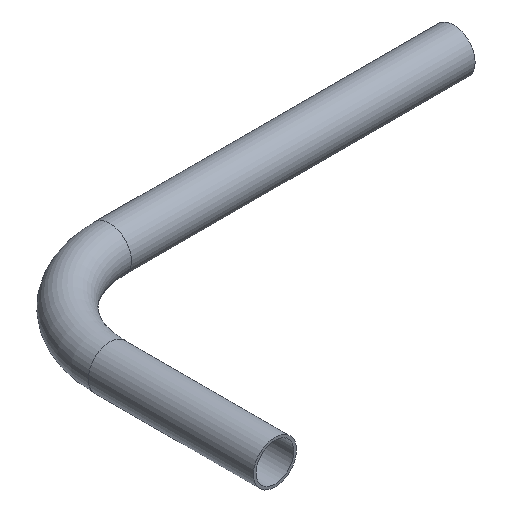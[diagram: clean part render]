
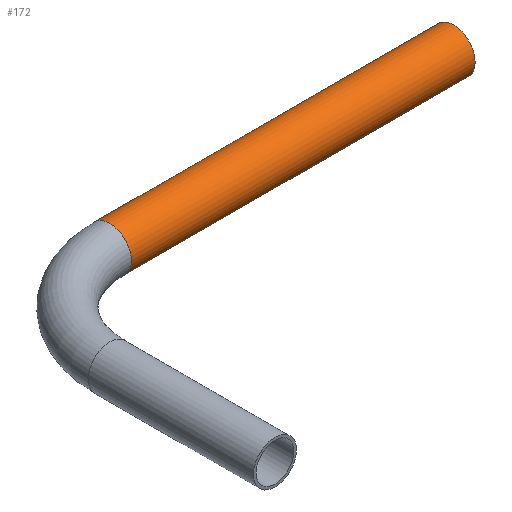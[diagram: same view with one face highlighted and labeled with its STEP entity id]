
A CAD part, isometric view. The second image highlights one B-rep face of the part: STEP entity #172.
In plain terms, the highlighted cylindrical face has radius 24.15 mm (diameter 48.3 mm), a full revolution.
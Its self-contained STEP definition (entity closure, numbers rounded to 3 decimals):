
#2 = FACE_OUTER_BOUND ( 'NONE', #75, .T. ) ;
#17 = AXIS2_PLACEMENT_3D ( 'NONE', #192, #98, #139 ) ;
#21 = CARTESIAN_POINT ( 'NONE',  ( 115., 300., 0. ) ) ;
#24 = CYLINDRICAL_SURFACE ( 'NONE', #218, 24.15 ) ;
#25 = DIRECTION ( 'NONE',  ( 1., 0., 0. ) ) ;
#27 = VERTEX_POINT ( 'NONE', #101 ) ;
#28 = DIRECTION ( 'NONE',  ( 0., 1., 0. ) ) ;
#54 = DIRECTION ( 'NONE',  ( 1., 0., 0. ) ) ;
#55 = CIRCLE ( 'NONE', #205, 24.15 ) ;
#63 = VERTEX_POINT ( 'NONE', #146 ) ;
#75 = EDGE_LOOP ( 'NONE', ( #248 ) ) ;
#81 = DIRECTION ( 'NONE',  ( 0., 0., 1. ) ) ;
#86 = EDGE_CURVE ( 'NONE', #63, #63, #55, .T. ) ;
#98 = DIRECTION ( 'NONE',  ( 1., 0., 0. ) ) ;
#101 = CARTESIAN_POINT ( 'NONE',  ( 500., 300., 24.15 ) ) ;
#113 = EDGE_CURVE ( 'NONE', #27, #27, #214, .T. ) ;
#137 = ORIENTED_EDGE ( 'NONE', *, *, #113, .F. ) ;
#139 = DIRECTION ( 'NONE',  ( 0., 0., 1. ) ) ;
#141 = EDGE_LOOP ( 'NONE', ( #137 ) ) ;
#146 = CARTESIAN_POINT ( 'NONE',  ( 115., 300., 24.15 ) ) ;
#172 = ADVANCED_FACE ( 'NONE', ( #238, #2 ), #24, .T. ) ;
#192 = CARTESIAN_POINT ( 'NONE',  ( 500., 300., 0. ) ) ;
#205 = AXIS2_PLACEMENT_3D ( 'NONE', #21, #54, #81 ) ;
#214 = CIRCLE ( 'NONE', #17, 24.15 ) ;
#218 = AXIS2_PLACEMENT_3D ( 'NONE', #235, #25, #28 ) ;
#235 = CARTESIAN_POINT ( 'NONE',  ( 115., 300., 0. ) ) ;
#238 = FACE_OUTER_BOUND ( 'NONE', #141, .T. ) ;
#248 = ORIENTED_EDGE ( 'NONE', *, *, #86, .T. ) ;
